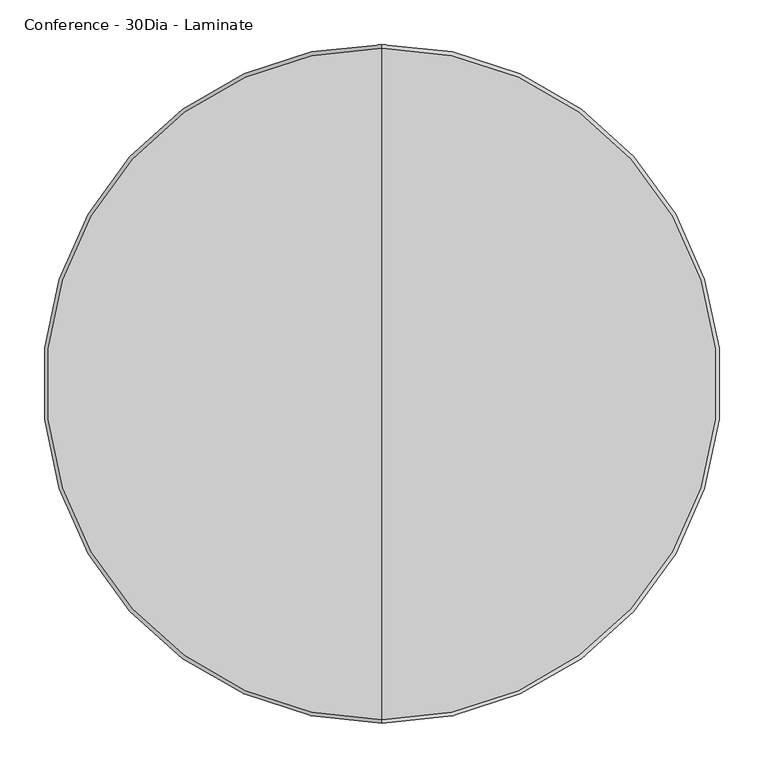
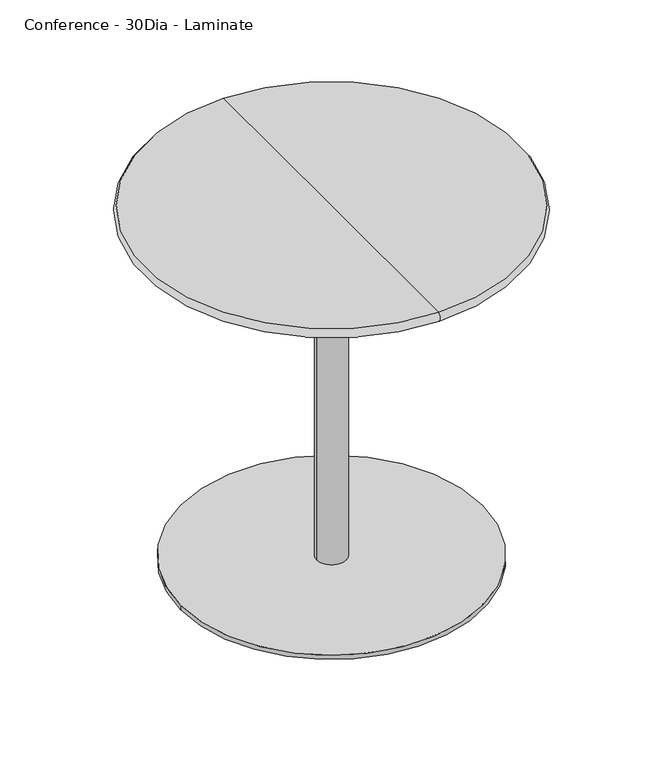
"""IFC4 building model written with IfcOpenShell, lengths in millimetres: furniture geometry, Steelcase Coalesse - Enea - Table - Single Base : Conference - 30Dia - Laminate."""

from ifc_helpers import new_model, si_unit, point, frame, frame_2d, origin, origin_with_axes, place, context, project, spatial, circle_curve, ellipse_curve, trimmed, segment, composite_curve, outline, extrude, source, transform, mapped, element, save
from ifc_brep_helpers import plane_surface, revolved_surface, advanced_brep


def conference_30dia_laminate_23343055(model_context):
    return source(origin(), model_context, "Body", "SolidModel", [
        extrude(outline(composite_curve([segment(trimmed(circle_curve(frame_2d((537.718, -284.0746893)), 25.4), [point((512.318, -284.0746893))], [point((563.118, -284.0746893))], False, "CARTESIAN"), True, "CONTINUOUS"), segment(trimmed(circle_curve(frame_2d((537.718, -284.0746893)), 25.4), [point((563.118, -284.0746893))], [point((512.318, -284.0746893))], False, "CARTESIAN"), True, "CONTINUOUS")], self_intersect=False)), origin_with_axes(), (0.0, 0.0, 1.0), 6.35),
        extrude(outline(composite_curve([segment(trimmed(circle_curve(frame_2d((791.3613107, -537.3772238)), 25.4), [point((765.9613107, -537.3772238))], [point((816.7613107, -537.3772238))], False, "CARTESIAN"), True, "CONTINUOUS"), segment(trimmed(circle_curve(frame_2d((791.3613107, -537.3772238)), 25.4), [point((816.7613107, -537.3772238))], [point((765.9613107, -537.3772238))], False, "CARTESIAN"), True, "CONTINUOUS")], self_intersect=False)), origin_with_axes(), (0.0, 0.0, 1.0), 6.35),
        extrude(outline(composite_curve([segment(trimmed(circle_curve(frame_2d((284.0746893, -537.3772238)), 25.4), [point((258.6746893, -537.3772238))], [point((309.4746893, -537.3772238))], False, "CARTESIAN"), True, "CONTINUOUS"), segment(trimmed(circle_curve(frame_2d((284.0746893, -537.3772238)), 25.4), [point((309.4746893, -537.3772238))], [point((258.6746893, -537.3772238))], False, "CARTESIAN"), True, "CONTINUOUS")], self_intersect=False)), origin_with_axes(), (0.0, 0.0, 1.0), 6.35),
        extrude(outline(composite_curve([segment(trimmed(circle_curve(frame_2d((537.718, -790.6797584)), 25.4), [point((512.318, -790.6797584))], [point((563.118, -790.6797584))], False, "CARTESIAN"), True, "CONTINUOUS"), segment(trimmed(circle_curve(frame_2d((537.718, -790.6797584)), 25.4), [point((563.118, -790.6797584))], [point((512.318, -790.6797584))], False, "CARTESIAN"), True, "CONTINUOUS")], self_intersect=False)), origin_with_axes(), (0.0, 0.0, 1.0), 6.35),
        advanced_brep(
        [(537.718, -914.4075871, 762.0), (537.718, -161.0284129, 762.0), (537.718, -537.718, 762.0), (537.718, -914.4075871, 742.95), (537.718, -161.0284129, 742.95), (537.718, -537.718, 742.95)],
        [
            (0, 1, circle_curve(frame((537.718, -537.718, 762.0), z_axis=(0.0, 0.0, 1.0), x_axis=(0.0, 1.0, 0.0)), 376.6895871)),
            (1, 2),
            (2, 0),
            (1, 0, circle_curve(frame((537.718, -537.718, 762.0), z_axis=(0.0, 0.0, 1.0), x_axis=(0.0, 1.0, 0.0)), 376.6895871)),
            (3, 4, circle_curve(frame((537.718, -537.718, 742.95), z_axis=(0.0, 0.0, 1.0), x_axis=(0.0, 1.0, 0.0)), 376.6895871)),
            (4, 1, circle_curve(frame((537.718, -169.3968446, 752.475), z_axis=(1.0, 0.0, 0.0), x_axis=(0.0, -1.0, 0.0)), 12.6789697)),
            (0, 3, circle_curve(frame((537.718, -906.0391554, 752.475), z_axis=(1.0, 0.0, 0.0), x_axis=(0.0, 1.0, 0.0)), 12.6789697)),
            (4, 3, circle_curve(frame((537.718, -537.718, 742.95), z_axis=(0.0, 0.0, 1.0), x_axis=(0.0, 1.0, 0.0)), 376.6895871)),
            (5, 4),
            (3, 5),
        ],
        [
            plane_surface(frame((537.718, -537.718, 762.0), z_axis=(0.0, 0.0, 1.0), x_axis=(0.0, 1.0, 0.0))),
            revolved_surface(trimmed(ellipse_curve(frame((537.718, -169.3968446, 752.475), z_axis=(-1.0, 0.0, 0.0), x_axis=(0.0, -1.0, 0.0)), 12.6789697, 12.6789697), [point((537.718, -161.0284129, 762.0))], [point((537.718, -161.0284129, 742.95))], True, "CARTESIAN"), (537.718, -537.718, 803.5678651), (0.0, 0.0, -1.0)),
            plane_surface(frame((537.718, -537.718, 742.95), z_axis=(0.0, 0.0, -1.0), x_axis=(0.0, 1.0, 0.0))),
        ],
        [
            (0, [[1, 2, 3]]),
            (0, [[4, -3, -2]]),
            (1, [[5, 6, -1, 7]]),
            (1, [[8, -7, -4, -6]]),
            (2, [[9, -5, 10]]),
            (2, [[-10, -8, -9]]),
        ],
    ),
        extrude(outline(composite_curve([segment(trimmed(circle_curve(frame_2d((537.718, -537.718)), 304.8), [point((842.518, -537.718))], [point((232.918, -537.718))], False, "CARTESIAN"), True, "CONTINUOUS"), segment(trimmed(circle_curve(frame_2d((537.718, -537.718)), 304.8), [point((232.918, -537.718))], [point((842.518, -537.718))], False, "CARTESIAN"), True, "CONTINUOUS")], self_intersect=False)), frame((0.0, 0.0, 6.35), z_axis=(0.0, 0.0, 1.0), x_axis=(1.0, 0.0, 0.0)), (0.0, 0.0, 1.0), 9.525),
        extrude(outline(composite_curve([segment(trimmed(circle_curve(frame_2d((537.7182907, -537.7179273)), 30.0214725), [point((567.7397632, -537.7179273))], [point((507.6968182, -537.7179273))], False, "CARTESIAN"), True, "CONTINUOUS"), segment(trimmed(circle_curve(frame_2d((537.7182907, -537.7179273)), 30.0214725), [point((507.6968182, -537.7179273))], [point((567.7397632, -537.7179273))], False, "CARTESIAN"), True, "CONTINUOUS")], self_intersect=False)), frame((0.0, 0.0, 15.875), z_axis=(0.0, 0.0, 1.0), x_axis=(1.0, 0.0, 0.0)), (0.0, 0.0, 1.0), 727.075),
    ])


if __name__ == "__main__":
    model = new_model("IFC4")
    model_context = context("Model", 3, world=origin())
    ifc_project = project(units=[si_unit("LENGTHUNIT", "METRE", prefix="MILLI")], contexts=[model_context])
    site = spatial("IfcSite", under=ifc_project)
    building = spatial("IfcBuilding", under=site)
    placement = place(None, origin())
    conference_30dia_laminate_shape = conference_30dia_laminate_23343055(model_context)
    element("IfcFurniture", 1, ObjectType="Steelcase Coalesse - Enea - Table - Single Base : Conference - 30Dia - Laminate", at=placement, inside=building, context=model_context, shape_type="MappedRepresentation", body=[
        mapped(conference_30dia_laminate_shape, transform((0.0, 0.0, 0.0), x_axis=(1.0, 0.0, 0.0), y_axis=(0.0, 1.0, 0.0), z_axis=(0.0, 0.0, 1.0))),
    ])
    save(model, "model.ifc")
